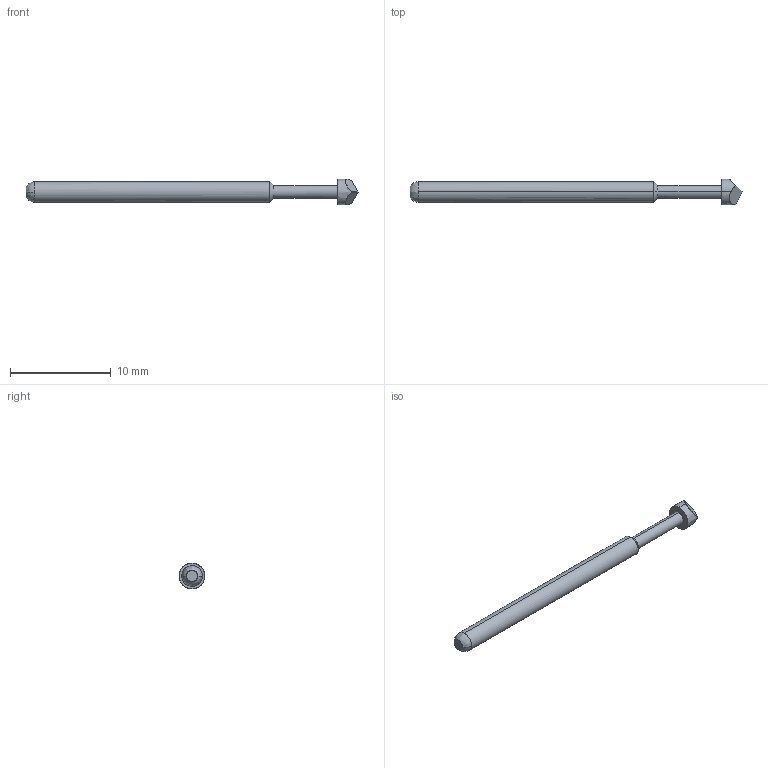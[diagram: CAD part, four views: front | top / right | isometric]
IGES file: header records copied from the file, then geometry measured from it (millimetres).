
Start section: SolidWorks IGES file using analytic representation for surfaces
Global section: file name: \\CODA-VM-SBS\RedirectedFolders\georged\My Documents\CODA CAD FILES\GENERAL PURPOSE TEST PROBES\MEDIUM REACH TEST PROBES\PA5 SERIES\PA5T.IGS; native system: SolidWorks 2024; preprocessor: SolidWorks 2024; author: GeorgeD; date: 240904.150424; units: inch
Bounding box: 33.02 x 2.54 x 2.54 mm (x, y, z)
Surface area: 202.8 mm2 (no closed solid volume)
Topology: 0 solids, 0 shells, 15 faces, 164 edges, 164 vertices
Faces by surface type: bspline 15
